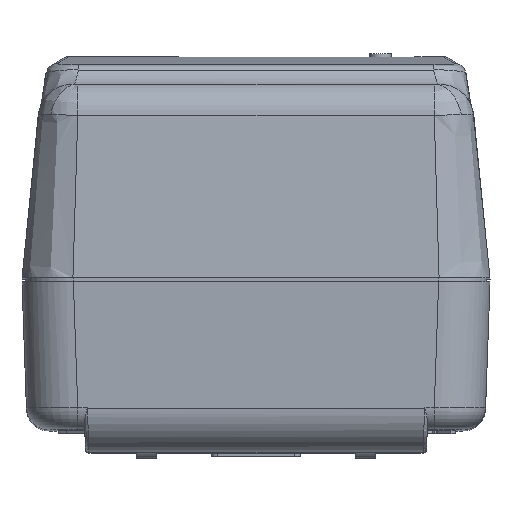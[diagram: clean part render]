
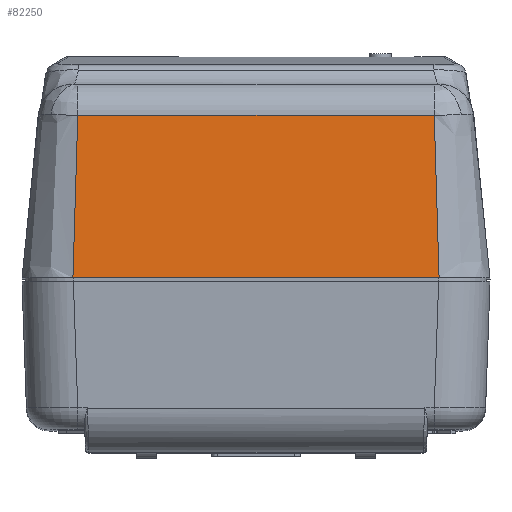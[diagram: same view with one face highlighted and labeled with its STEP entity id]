
A CAD part, top view. The second image highlights one B-rep face of the part: STEP entity #82250.
In plain terms, the highlighted planar face has unit normal (0, 0.062, 0.998).
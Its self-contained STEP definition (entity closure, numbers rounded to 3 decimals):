
#78147=CARTESIAN_POINT('',(-16.038,0.,
37.004));
#78148=CARTESIAN_POINT('',(-15.984,1.582,
36.905));
#78149=CARTESIAN_POINT('',(-15.882,4.745,
36.707));
#78150=CARTESIAN_POINT('',(-15.739,9.49,
36.411));
#78151=CARTESIAN_POINT('',(-15.657,12.654,
36.213));
#78152=CARTESIAN_POINT('',(-15.614,14.236,
36.114));
#78571=DIRECTION('',(1.,0.,0.));
#78572=VECTOR('',#78571,32.076);
#78573=CARTESIAN_POINT('',(-16.038,0.,
37.004));
#78574=LINE('',#78573,#78572);
#81300=CARTESIAN_POINT('',(16.038,0.,
37.004));
#81301=CARTESIAN_POINT('',(15.98,1.704,36.897));
#81302=CARTESIAN_POINT('',(15.873,5.031,36.689));
#81303=CARTESIAN_POINT('',(15.731,9.777,36.393));
#81304=CARTESIAN_POINT('',(15.654,12.777,36.205));
#81305=CARTESIAN_POINT('',(15.614,14.236,36.114));
#81324=DIRECTION('',(-1.,0.,0.));
#81325=VECTOR('',#81324,31.229);
#81326=CARTESIAN_POINT('',(15.614,14.236,36.114));
#81327=LINE('',#81326,#81325);
#81638=VERTEX_POINT('',#78147);
#81639=VERTEX_POINT('',#78152);
#81640=CARTESIAN_POINT('',(15.614,14.236,36.114));
#81641=VERTEX_POINT('',#81640);
#81642=VERTEX_POINT('',#81300);
#82235=CARTESIAN_POINT('',(0.,7.118,
36.559));
#82236=DIRECTION('',(0.,0.062,0.998));
#82237=DIRECTION('',(1.,0.,0.));
#82238=AXIS2_PLACEMENT_3D('',#82235,#82236,#82237);
#82239=PLANE('',#82238);
#82241=ORIENTED_EDGE('',*,*,#82240,.T.);
#82243=ORIENTED_EDGE('',*,*,#82242,.F.);
#82245=ORIENTED_EDGE('',*,*,#82244,.F.);
#82247=ORIENTED_EDGE('',*,*,#82246,.F.);
#82248=EDGE_LOOP('',(#82241,#82243,#82245,#82247));
#82249=FACE_OUTER_BOUND('',#82248,.F.);
#82250=ADVANCED_FACE('',(#82249),#82239,.T.);
#78153=B_SPLINE_CURVE_WITH_KNOTS('',3,(#78147,#78148,#78149,#78150,#78151,
#78152),.UNSPECIFIED.,.F.,.F.,(4,1,1,4),(0.,0.333,
0.667,1.),.UNSPECIFIED.);
#81306=B_SPLINE_CURVE_WITH_KNOTS('',3,(#81300,#81301,#81302,#81303,#81304,
#81305),.UNSPECIFIED.,.F.,.F.,(4,1,1,4),(0.,0.333,
0.667,1.),.UNSPECIFIED.);
#82240=EDGE_CURVE('',#81638,#81639,#78153,.T.);
#82242=EDGE_CURVE('',#81641,#81639,#81327,.T.);
#82244=EDGE_CURVE('',#81642,#81641,#81306,.T.);
#82246=EDGE_CURVE('',#81638,#81642,#78574,.T.);
